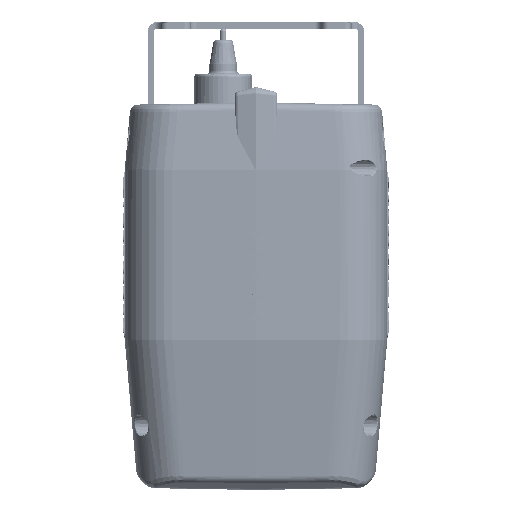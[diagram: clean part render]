
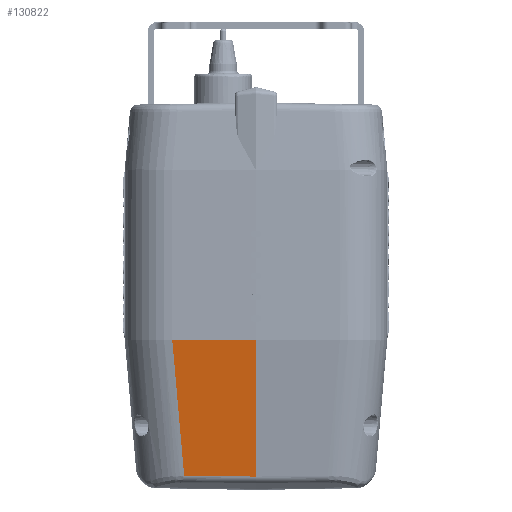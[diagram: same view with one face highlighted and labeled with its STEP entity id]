
A CAD part, front view. The second image highlights one B-rep face of the part: STEP entity #130822.
In plain terms, the highlighted planar face has unit normal (-0.018, -0.992, -0.122).
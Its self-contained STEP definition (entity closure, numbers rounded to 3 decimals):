
#534 = CARTESIAN_POINT ( 'NONE',  ( 0., -61.061, -214.662 ) ) ;
#7169 =( BOUNDED_CURVE ( )  B_SPLINE_CURVE ( 3, ( #285687, #284506, #259989, #133057 ),
 .UNSPECIFIED., .F., .F. ) 
 B_SPLINE_CURVE_WITH_KNOTS ( ( 4, 4 ),
 ( 6.283, 6.29 ),
 .UNSPECIFIED. ) 
 CURVE ( )  GEOMETRIC_REPRESENTATION_ITEM ( )  RATIONAL_B_SPLINE_CURVE ( ( 1., 1., 1., 1. ) ) 
 REPRESENTATION_ITEM ( '' )  );
#8759 = EDGE_CURVE ( 'NONE', #162720, #82100, #7169, .T. ) ;
#14527 = ORIENTED_EDGE ( 'NONE', *, *, #298232, .F. ) ;
#15883 = VECTOR ( 'NONE', #241365, 1000. ) ;
#16451 = EDGE_CURVE ( 'NONE', #82100, #70442, #228742, .T. ) ;
#37035 = EDGE_CURVE ( 'NONE', #70442, #326033, #58042, .T. ) ;
#37772 = CARTESIAN_POINT ( 'NONE',  ( -33.932, -60.515, -214.243 ) ) ;
#49029 = VECTOR ( 'NONE', #173595, 1000. ) ;
#54343 = FACE_OUTER_BOUND ( 'NONE', #193469, .T. ) ;
#58042 = LINE ( 'NONE', #198372, #253355 ) ;
#70442 = VERTEX_POINT ( 'NONE', #37772 ) ;
#72238 = CARTESIAN_POINT ( 'NONE',  ( -0.085, -68.999, -150. ) ) ;
#82100 = VERTEX_POINT ( 'NONE', #239182 ) ;
#93296 = VECTOR ( 'NONE', #144342, 1000. ) ;
#97693 = CARTESIAN_POINT ( 'NONE',  ( 0., -69., -150. ) ) ;
#106841 = CARTESIAN_POINT ( 'NONE',  ( 0., -69., -150. ) ) ;
#111478 = AXIS2_PLACEMENT_3D ( 'NONE', #106841, #132439, #310694 ) ;
#130822 = ADVANCED_FACE ( 'NONE', ( #54343 ), #259393, .T. ) ;
#132439 = DIRECTION ( 'NONE',  ( -0.017, -0.992, -0.122 ) ) ;
#133057 = CARTESIAN_POINT ( 'NONE',  ( -39.556, -68.309, -149.962 ) ) ;
#144342 = DIRECTION ( 'NONE',  ( 0.087, 0.12, -0.989 ) ) ;
#162720 = VERTEX_POINT ( 'NONE', #177706 ) ;
#173595 = DIRECTION ( 'NONE',  ( 1., -0.017, -0.001 ) ) ;
#175477 = ORIENTED_EDGE ( 'NONE', *, *, #16451, .T. ) ;
#177706 = CARTESIAN_POINT ( 'NONE',  ( -39.401, -68.312, -149.958 ) ) ;
#180655 = ORIENTED_EDGE ( 'NONE', *, *, #8759, .T. ) ;
#193469 = EDGE_LOOP ( 'NONE', ( #175477, #262105, #236403, #14527, #180655 ) ) ;
#197678 = CARTESIAN_POINT ( 'NONE',  ( -39.264, -67.904, -153.302 ) ) ;
#198372 = CARTESIAN_POINT ( 'NONE',  ( -0.67, -61.05, -214.653 ) ) ;
#215708 = CARTESIAN_POINT ( 'NONE',  ( 0., -69., -150. ) ) ;
#219245 = LINE ( 'NONE', #215708, #15883 ) ;
#223910 = DIRECTION ( 'NONE',  ( 1., -0.016, -0.012 ) ) ;
#228742 = LINE ( 'NONE', #197678, #93296 ) ;
#236403 = ORIENTED_EDGE ( 'NONE', *, *, #319131, .T. ) ;
#239182 = CARTESIAN_POINT ( 'NONE',  ( -39.556, -68.309, -149.962 ) ) ;
#241365 = DIRECTION ( 'NONE',  ( 0., -0.122, 0.993 ) ) ;
#244347 = LINE ( 'NONE', #72238, #49029 ) ;
#253355 = VECTOR ( 'NONE', #223910, 1000. ) ;
#259393 = PLANE ( 'NONE',  #111478 ) ;
#259989 = CARTESIAN_POINT ( 'NONE',  ( -39.505, -68.31, -149.959 ) ) ;
#262105 = ORIENTED_EDGE ( 'NONE', *, *, #37035, .T. ) ;
#284506 = CARTESIAN_POINT ( 'NONE',  ( -39.453, -68.311, -149.958 ) ) ;
#285687 = CARTESIAN_POINT ( 'NONE',  ( -39.401, -68.312, -149.958 ) ) ;
#298232 = EDGE_CURVE ( 'NONE', #162720, #300373, #244347, .T. ) ;
#300373 = VERTEX_POINT ( 'NONE', #97693 ) ;
#310694 = DIRECTION ( 'NONE',  ( 0., -0.122, 0.993 ) ) ;
#319131 = EDGE_CURVE ( 'NONE', #326033, #300373, #219245, .T. ) ;
#326033 = VERTEX_POINT ( 'NONE', #534 ) ;
